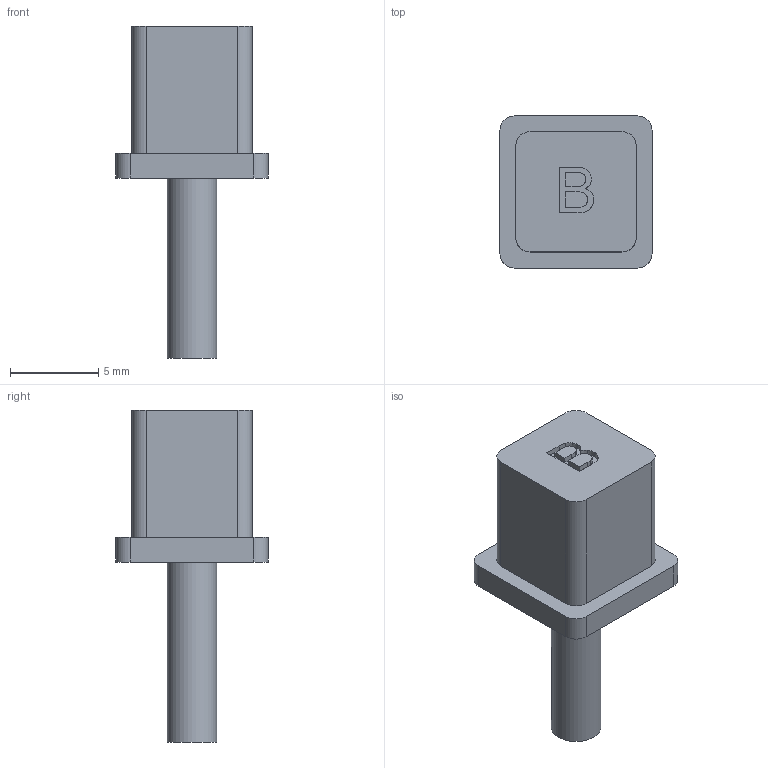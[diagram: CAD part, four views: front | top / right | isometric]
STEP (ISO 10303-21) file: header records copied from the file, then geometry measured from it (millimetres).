
FILE_DESCRIPTION(('Open CASCADE Model'),'2;1');
FILE_NAME('Open CASCADE Shape Model','2026-11-14T12:36:32',('Author'),( 'Open CASCADE'),'Open CASCADE STEP processor 7.9','Open CASCADE 7.9' ,'Unknown');
FILE_SCHEMA(('AUTOMOTIVE_DESIGN { 1 0 10303 214 1 1 1 1 }'));
Length unit declared in the file: millimetre
Products named in the file (1): Open CASCADE STEP translator 7.9 5
Bounding box: 8.6 x 8.6 x 18.77 mm (x, y, z)
Volume: 493.6 mm3; surface area: 473.3 mm2
Topology: 1 solids, 1 shells, 57 faces, 150 edges, 100 vertices
Faces by surface type: plane 24, extrusion 24, cylinder 9
Full cylindrical faces by diameter (mm): 2.8 x1
Entity records: 4059 total; most frequent: CARTESIAN_POINT 1268, DIRECTION 413, ORIENTED_EDGE 300, VECTOR 300, PCURVE 300, DEFINITIONAL_REPRESENTATION 300, LINE 276, B_SPLINE_CURVE_WITH_KNOTS 162
